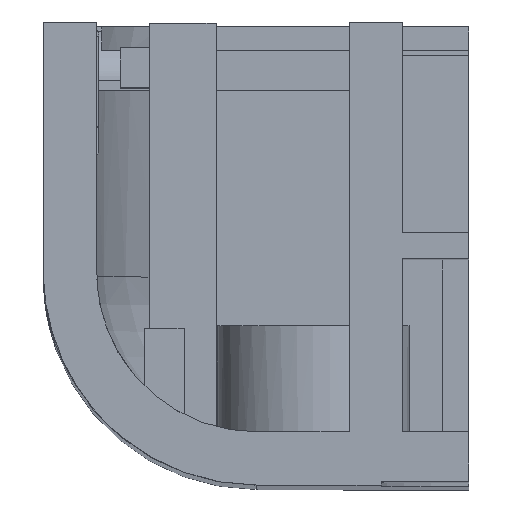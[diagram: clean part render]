
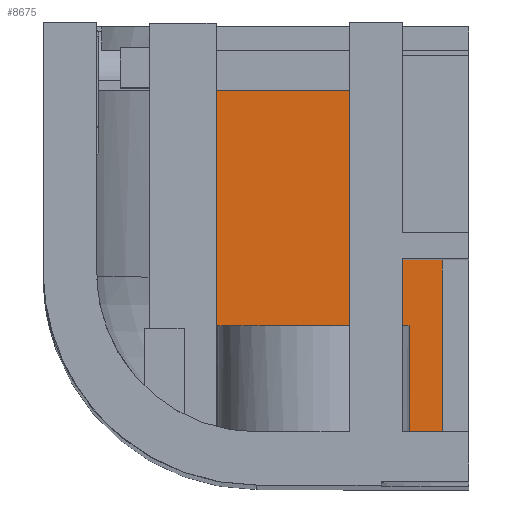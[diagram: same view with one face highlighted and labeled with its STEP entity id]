
A CAD part, top view. The second image highlights one B-rep face of the part: STEP entity #8675.
In plain terms, the highlighted planar face has unit normal (0, 0, 1).
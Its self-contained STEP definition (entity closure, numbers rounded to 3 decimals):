
#1637 = PLANE('',#1638);
#1638 = AXIS2_PLACEMENT_3D('',#1639,#1640,#1641);
#1639 = CARTESIAN_POINT('',(-42.,-11.2,-73.));
#1640 = DIRECTION('',(0.,1.,0.));
#1641 = DIRECTION('',(0.,-0.,1.));
#1808 = TOROIDAL_SURFACE('',#1809,20.,6.);
#1809 = AXIS2_PLACEMENT_3D('',#1810,#1811,#1812);
#1810 = CARTESIAN_POINT('',(-16.,-5.2,-47.));
#1811 = DIRECTION('',(0.,1.,0.));
#1812 = DIRECTION('',(-1.,0.,0.));
#3405 = PLANE('',#3406);
#3406 = AXIS2_PLACEMENT_3D('',#3407,#3408,#3409);
#3407 = CARTESIAN_POINT('',(-28.,-16.,-58.));
#3408 = DIRECTION('',(1.,0.,0.));
#3409 = DIRECTION('',(0.,0.,1.));
#3828 = PLANE('',#3829);
#3829 = AXIS2_PLACEMENT_3D('',#3830,#3831,#3832);
#3830 = CARTESIAN_POINT('',(-38.,-11.7,-75.5));
#3831 = DIRECTION('',(1.,0.,0.));
#3832 = DIRECTION('',(0.,0.,1.));
#4836 = VERTEX_POINT('',#4837);
#4837 = CARTESIAN_POINT('',(-28.,-11.2,-55.8));
#4857 = EDGE_CURVE('',#4858,#4836,#4860,.T.);
#4858 = VERTEX_POINT('',#4859);
#4859 = CARTESIAN_POINT('',(-33.96,-11.2,-55.8));
#4860 = SURFACE_CURVE('',#4861,(#4865,#4872),.PCURVE_S1.);
#4861 = LINE('',#4862,#4863);
#4862 = CARTESIAN_POINT('',(-40.,-11.2,-55.8));
#4863 = VECTOR('',#4864,1.);
#4864 = DIRECTION('',(1.,0.,0.));
#4865 = PCURVE('',#1637,#4866);
#4866 = DEFINITIONAL_REPRESENTATION('',(#4867),#4871);
#4867 = LINE('',#4868,#4869);
#4868 = CARTESIAN_POINT('',(17.2,2.));
#4869 = VECTOR('',#4870,1.);
#4870 = DIRECTION('',(0.,1.));
#4871 = ( GEOMETRIC_REPRESENTATION_CONTEXT(2) 
PARAMETRIC_REPRESENTATION_CONTEXT() REPRESENTATION_CONTEXT('2D SPACE',''
  ) );
#4872 = PCURVE('',#4873,#4878);
#4873 = PLANE('',#4874);
#4874 = AXIS2_PLACEMENT_3D('',#4875,#4876,#4877);
#4875 = CARTESIAN_POINT('',(-38.,-11.7,-55.8));
#4876 = DIRECTION('',(0.,0.,1.));
#4877 = DIRECTION('',(1.,0.,-0.));
#4878 = DEFINITIONAL_REPRESENTATION('',(#4879),#4883);
#4879 = LINE('',#4880,#4881);
#4880 = CARTESIAN_POINT('',(-2.,0.5));
#4881 = VECTOR('',#4882,1.);
#4882 = DIRECTION('',(1.,0.));
#4883 = ( GEOMETRIC_REPRESENTATION_CONTEXT(2) 
PARAMETRIC_REPRESENTATION_CONTEXT() REPRESENTATION_CONTEXT('2D SPACE',''
  ) );
#5381 = EDGE_CURVE('',#4858,#5382,#5384,.T.);
#5382 = VERTEX_POINT('',#5383);
#5383 = CARTESIAN_POINT('',(-38.,-9.927,-55.8));
#5384 = SURFACE_CURVE('',#5385,(#5398,#5414),.PCURVE_S1.);
#5385 = B_SPLINE_CURVE_WITH_KNOTS('',6,(#5386,#5387,#5388,#5389,#5390,
    #5391,#5392,#5393,#5394,#5395,#5396,#5397),.UNSPECIFIED.,.F.,.F.,(7,
    5,7),(0.,0.513,1.),.UNSPECIFIED.);
#5386 = CARTESIAN_POINT('',(-33.96,-11.2,-55.8));
#5387 = CARTESIAN_POINT('',(-34.444,-11.2,-55.8));
#5388 = CARTESIAN_POINT('',(-34.929,-11.162,-55.8));
#5389 = CARTESIAN_POINT('',(-35.409,-11.086,-55.8));
#5390 = CARTESIAN_POINT('',(-35.882,-10.97,-55.8));
#5391 = CARTESIAN_POINT('',(-36.342,-10.815,-55.8));
#5392 = CARTESIAN_POINT('',(-37.206,-10.437,-55.8));
#5393 = CARTESIAN_POINT('',(-37.612,-10.219,-55.8));
#5394 = CARTESIAN_POINT('',(-37.998,-9.966,-55.8));
#5395 = CARTESIAN_POINT('',(-38.361,-9.681,-55.8));
#5396 = CARTESIAN_POINT('',(-38.696,-9.365,-55.8));
#5397 = CARTESIAN_POINT('',(-39.,-9.021,-55.8));
#5398 = PCURVE('',#1808,#5399);
#5399 = DEFINITIONAL_REPRESENTATION('',(#5400),#5413);
#5400 = B_SPLINE_CURVE_WITH_KNOTS('',6,(#5401,#5402,#5403,#5404,#5405,
    #5406,#5407,#5408,#5409,#5410,#5411,#5412),.UNSPECIFIED.,.F.,.F.,(7,
    5,7),(0.,0.513,1.),.UNSPECIFIED.);
#5401 = CARTESIAN_POINT('',(5.828,4.712));
#5402 = CARTESIAN_POINT('',(5.838,4.785));
#5403 = CARTESIAN_POINT('',(5.848,4.858));
#5404 = CARTESIAN_POINT('',(5.858,4.931));
#5405 = CARTESIAN_POINT('',(5.867,5.005));
#5406 = CARTESIAN_POINT('',(5.875,5.08));
#5407 = CARTESIAN_POINT('',(5.89,5.227));
#5408 = CARTESIAN_POINT('',(5.897,5.299));
#5409 = CARTESIAN_POINT('',(5.903,5.372));
#5410 = CARTESIAN_POINT('',(5.908,5.445));
#5411 = CARTESIAN_POINT('',(5.913,5.519));
#5412 = CARTESIAN_POINT('',(5.918,5.593));
#5413 = ( GEOMETRIC_REPRESENTATION_CONTEXT(2) 
PARAMETRIC_REPRESENTATION_CONTEXT() REPRESENTATION_CONTEXT('2D SPACE',''
  ) );
#5414 = PCURVE('',#4873,#5415);
#5415 = DEFINITIONAL_REPRESENTATION('',(#5416),#5429);
#5416 = B_SPLINE_CURVE_WITH_KNOTS('',6,(#5417,#5418,#5419,#5420,#5421,
    #5422,#5423,#5424,#5425,#5426,#5427,#5428),.UNSPECIFIED.,.F.,.F.,(7,
    5,7),(0.,0.513,1.),.UNSPECIFIED.);
#5417 = CARTESIAN_POINT('',(4.04,0.5));
#5418 = CARTESIAN_POINT('',(3.556,0.5));
#5419 = CARTESIAN_POINT('',(3.071,0.538));
#5420 = CARTESIAN_POINT('',(2.591,0.614));
#5421 = CARTESIAN_POINT('',(2.118,0.73));
#5422 = CARTESIAN_POINT('',(1.658,0.885));
#5423 = CARTESIAN_POINT('',(0.794,1.263));
#5424 = CARTESIAN_POINT('',(0.388,1.481));
#5425 = CARTESIAN_POINT('',(0.002,1.734));
#5426 = CARTESIAN_POINT('',(-0.361,2.019));
#5427 = CARTESIAN_POINT('',(-0.696,2.335));
#5428 = CARTESIAN_POINT('',(-1.,2.679));
#5429 = ( GEOMETRIC_REPRESENTATION_CONTEXT(2) 
PARAMETRIC_REPRESENTATION_CONTEXT() REPRESENTATION_CONTEXT('2D SPACE',''
  ) );
#7307 = VERTEX_POINT('',#7308);
#7308 = CARTESIAN_POINT('',(-28.,1.8,-55.8));
#7322 = PLANE('',#7323);
#7323 = AXIS2_PLACEMENT_3D('',#7324,#7325,#7326);
#7324 = CARTESIAN_POINT('',(-38.,1.8,-55.8));
#7325 = DIRECTION('',(0.,1.,0.));
#7326 = DIRECTION('',(0.,-0.,1.));
#7334 = EDGE_CURVE('',#4836,#7307,#7335,.T.);
#7335 = SURFACE_CURVE('',#7336,(#7340,#7347),.PCURVE_S1.);
#7336 = LINE('',#7337,#7338);
#7337 = CARTESIAN_POINT('',(-28.,-11.7,-55.8));
#7338 = VECTOR('',#7339,1.);
#7339 = DIRECTION('',(0.,1.,0.));
#7340 = PCURVE('',#3405,#7341);
#7341 = DEFINITIONAL_REPRESENTATION('',(#7342),#7346);
#7342 = LINE('',#7343,#7344);
#7343 = CARTESIAN_POINT('',(2.2,-4.3));
#7344 = VECTOR('',#7345,1.);
#7345 = DIRECTION('',(0.,-1.));
#7346 = ( GEOMETRIC_REPRESENTATION_CONTEXT(2) 
PARAMETRIC_REPRESENTATION_CONTEXT() REPRESENTATION_CONTEXT('2D SPACE',''
  ) );
#7347 = PCURVE('',#4873,#7348);
#7348 = DEFINITIONAL_REPRESENTATION('',(#7349),#7353);
#7349 = LINE('',#7350,#7351);
#7350 = CARTESIAN_POINT('',(10.,0.));
#7351 = VECTOR('',#7352,1.);
#7352 = DIRECTION('',(0.,1.));
#7353 = ( GEOMETRIC_REPRESENTATION_CONTEXT(2) 
PARAMETRIC_REPRESENTATION_CONTEXT() REPRESENTATION_CONTEXT('2D SPACE',''
  ) );
#7850 = EDGE_CURVE('',#5382,#7851,#7853,.T.);
#7851 = VERTEX_POINT('',#7852);
#7852 = CARTESIAN_POINT('',(-38.,1.8,-55.8));
#7853 = SURFACE_CURVE('',#7854,(#7858,#7865),.PCURVE_S1.);
#7854 = LINE('',#7855,#7856);
#7855 = CARTESIAN_POINT('',(-38.,-11.7,-55.8));
#7856 = VECTOR('',#7857,1.);
#7857 = DIRECTION('',(0.,1.,0.));
#7858 = PCURVE('',#3828,#7859);
#7859 = DEFINITIONAL_REPRESENTATION('',(#7860),#7864);
#7860 = LINE('',#7861,#7862);
#7861 = CARTESIAN_POINT('',(19.7,0.));
#7862 = VECTOR('',#7863,1.);
#7863 = DIRECTION('',(0.,-1.));
#7864 = ( GEOMETRIC_REPRESENTATION_CONTEXT(2) 
PARAMETRIC_REPRESENTATION_CONTEXT() REPRESENTATION_CONTEXT('2D SPACE',''
  ) );
#7865 = PCURVE('',#4873,#7866);
#7866 = DEFINITIONAL_REPRESENTATION('',(#7867),#7871);
#7867 = LINE('',#7868,#7869);
#7868 = CARTESIAN_POINT('',(0.,0.));
#7869 = VECTOR('',#7870,1.);
#7870 = DIRECTION('',(0.,1.));
#7871 = ( GEOMETRIC_REPRESENTATION_CONTEXT(2) 
PARAMETRIC_REPRESENTATION_CONTEXT() REPRESENTATION_CONTEXT('2D SPACE',''
  ) );
#8675 = ADVANCED_FACE('',(#8676),#4873,.T.);
#8676 = FACE_BOUND('',#8677,.T.);
#8677 = EDGE_LOOP('',(#8678,#8699,#8700,#8701,#8702));
#8678 = ORIENTED_EDGE('',*,*,#8679,.F.);
#8679 = EDGE_CURVE('',#7851,#7307,#8680,.T.);
#8680 = SURFACE_CURVE('',#8681,(#8685,#8692),.PCURVE_S1.);
#8681 = LINE('',#8682,#8683);
#8682 = CARTESIAN_POINT('',(-38.,1.8,-55.8));
#8683 = VECTOR('',#8684,1.);
#8684 = DIRECTION('',(1.,0.,0.));
#8685 = PCURVE('',#4873,#8686);
#8686 = DEFINITIONAL_REPRESENTATION('',(#8687),#8691);
#8687 = LINE('',#8688,#8689);
#8688 = CARTESIAN_POINT('',(0.,13.5));
#8689 = VECTOR('',#8690,1.);
#8690 = DIRECTION('',(1.,0.));
#8691 = ( GEOMETRIC_REPRESENTATION_CONTEXT(2) 
PARAMETRIC_REPRESENTATION_CONTEXT() REPRESENTATION_CONTEXT('2D SPACE',''
  ) );
#8692 = PCURVE('',#7322,#8693);
#8693 = DEFINITIONAL_REPRESENTATION('',(#8694),#8698);
#8694 = LINE('',#8695,#8696);
#8695 = CARTESIAN_POINT('',(0.,0.));
#8696 = VECTOR('',#8697,1.);
#8697 = DIRECTION('',(0.,1.));
#8698 = ( GEOMETRIC_REPRESENTATION_CONTEXT(2) 
PARAMETRIC_REPRESENTATION_CONTEXT() REPRESENTATION_CONTEXT('2D SPACE',''
  ) );
#8699 = ORIENTED_EDGE('',*,*,#7850,.F.);
#8700 = ORIENTED_EDGE('',*,*,#5381,.F.);
#8701 = ORIENTED_EDGE('',*,*,#4857,.T.);
#8702 = ORIENTED_EDGE('',*,*,#7334,.T.);
